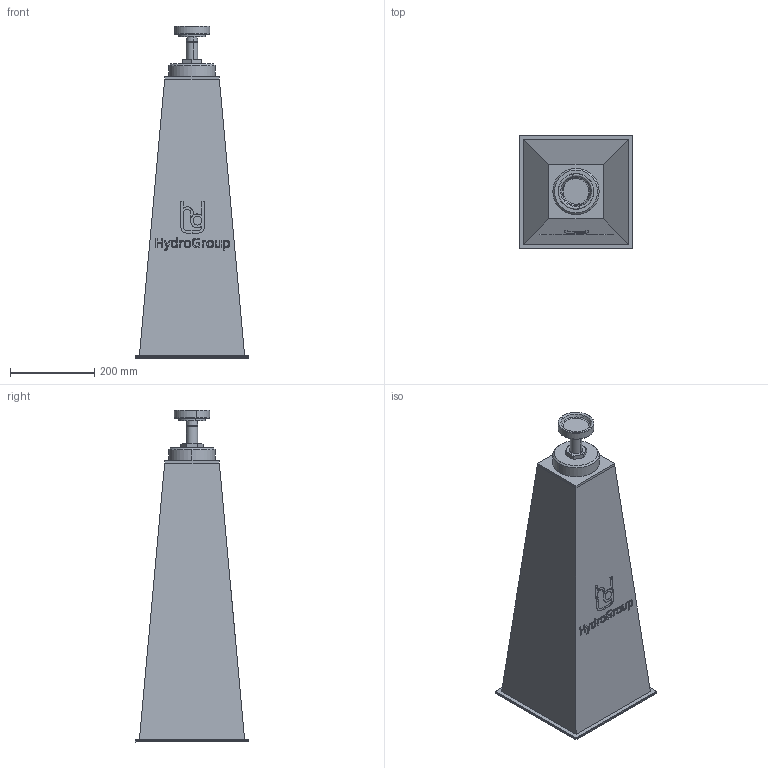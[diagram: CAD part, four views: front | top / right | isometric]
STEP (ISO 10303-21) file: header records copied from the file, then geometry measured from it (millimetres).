
FILE_DESCRIPTION(('STEP AP214'),'1');
FILE_NAME('RSRFE-I-05-V0.stp','2018-06-27T13:25:54',(' '),(' '),'Spatial InterOp 3D',' ',' ');
FILE_SCHEMA(('automotive_design'));
Length unit declared in the file: millimetre
Products named in the file (6): 1; 2; 3; 4; 5; 6
Bounding box: 270 x 270 x 788.99 mm (x, y, z)
Volume: 25585356.6 mm3; surface area: 839613.2 mm2
Topology: 6 solids, 6 shells, 227 faces, 561 edges, 366 vertices
Faces by surface type: plane 136, cylinder 33, cone 24, extrusion 24, torus 10
Entity records: 9162 total; most frequent: CARTESIAN_POINT 1834, ORIENTED_EDGE 1122, DIRECTION 1061, EDGE_CURVE 561, VECTOR 407, LINE 383, VERTEX_POINT 366, AXIS2_PLACEMENT_3D 327
